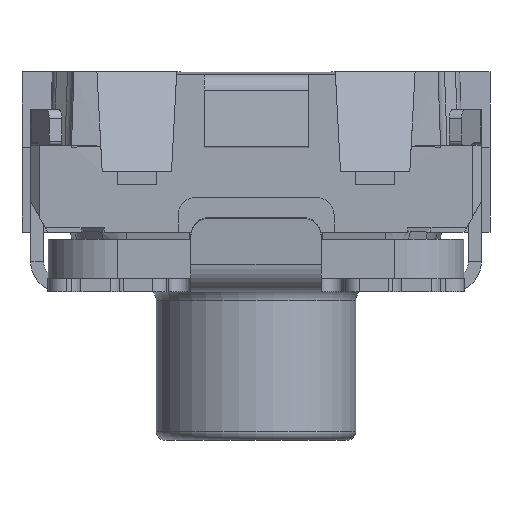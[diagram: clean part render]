
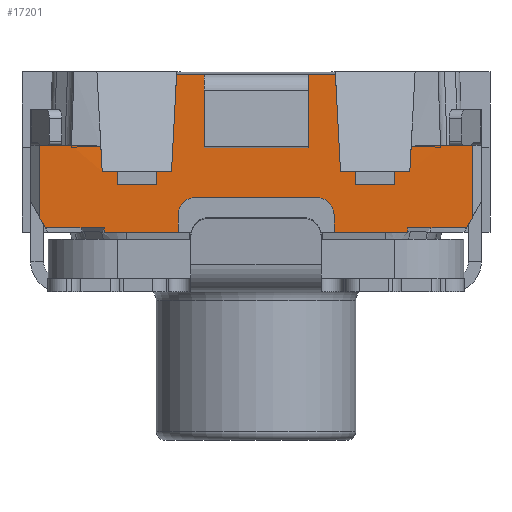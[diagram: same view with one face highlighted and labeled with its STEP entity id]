
A CAD part, left-side view. The second image highlights one B-rep face of the part: STEP entity #17201.
In plain terms, the highlighted planar face has unit normal (-1, 0, 0).
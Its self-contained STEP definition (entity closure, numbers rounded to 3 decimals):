
#11997=DIRECTION('',(0.,1.,0.));
#11998=VECTOR('',#11997,0.85);
#11999=CARTESIAN_POINT('',(-7.66,45.9,-1.06));
#12000=LINE('',#11999,#11998);
#12004=DIRECTION('',(0.,1.,0.));
#12005=VECTOR('',#12004,0.85);
#12006=CARTESIAN_POINT('',(-7.66,43.25,-1.06));
#12007=LINE('',#12006,#12005);
#12670=DIRECTION('',(0.,0.,-1.));
#12671=VECTOR('',#12670,0.05);
#12672=CARTESIAN_POINT('',(-7.66,43.25,-1.01));
#12673=LINE('',#12672,#12671);
#12677=DIRECTION('',(0.,0.052,-0.999));
#12678=VECTOR('',#12677,1.122);
#12679=CARTESIAN_POINT('',(-7.66,45.916,
0.76));
#12680=LINE('',#12679,#12678);
#12684=DIRECTION('',(0.,1.,0.));
#12685=VECTOR('',#12684,1.833);
#12686=CARTESIAN_POINT('',(-7.66,44.084,
0.76));
#12687=LINE('',#12686,#12685);
#12691=DIRECTION('',(0.,0.052,0.999));
#12692=VECTOR('',#12691,1.122);
#12693=CARTESIAN_POINT('',(-7.66,44.025,
-0.36));
#12694=LINE('',#12693,#12692);
#12698=DIRECTION('',(-0.034,0.052,-0.998));
#12699=VECTOR('',#12698,0.294);
#12700=CARTESIAN_POINT('',(-7.65,43.21,
-0.067));
#12701=LINE('',#12700,#12699);
#12705=DIRECTION('',(-0.03,-0.999,0.02));
#12706=VECTOR('',#12705,0.34);
#12707=CARTESIAN_POINT('',(-7.65,43.21,
-0.067));
#12708=LINE('',#12707,#12706);
#12712=DIRECTION('',(0.,1.,0.));
#12713=VECTOR('',#12712,0.37);
#12714=CARTESIAN_POINT('',(-7.66,42.5,
-0.06));
#12715=LINE('',#12714,#12713);
#12719=DIRECTION('',(0.,-0.496,0.868));
#12720=VECTOR('',#12719,0.144);
#12721=CARTESIAN_POINT('',(-7.66,42.571,-1.01));
#12722=LINE('',#12721,#12720);
#12726=CARTESIAN_POINT('',(-7.66,44.3,
-0.86));
#12727=DIRECTION('',(1.,0.,0.));
#12728=DIRECTION('',(0.,0.,1.));
#12729=AXIS2_PLACEMENT_3D('',#12726,#12727,#12728);
#12734=CARTESIAN_POINT('',(-7.66,45.7,
-0.86));
#12735=DIRECTION('',(1.,0.,0.));
#12736=DIRECTION('',(0.,1.,0.));
#12737=AXIS2_PLACEMENT_3D('',#12734,#12735,#12736);
#12742=DIRECTION('',(0.,-0.496,-0.868));
#12743=VECTOR('',#12742,0.144);
#12744=CARTESIAN_POINT('',(-7.66,47.5,
-0.885));
#12745=LINE('',#12744,#12743);
#12749=DIRECTION('',(0.,0.,-1.));
#12750=VECTOR('',#12749,0.825);
#12751=CARTESIAN_POINT('',(-7.66,47.5,
-0.06));
#12752=LINE('',#12751,#12750);
#12756=DIRECTION('',(0.,1.,0.));
#12757=VECTOR('',#12756,0.37);
#12758=CARTESIAN_POINT('',(-7.66,47.13,
-0.06));
#12759=LINE('',#12758,#12757);
#12763=DIRECTION('',(0.03,-0.999,-0.02));
#12764=VECTOR('',#12763,0.34);
#12765=CARTESIAN_POINT('',(-7.66,47.13,
-0.06));
#12766=LINE('',#12765,#12764);
#12770=DIRECTION('',(0.034,0.052,0.998));
#12771=VECTOR('',#12770,0.294);
#12772=CARTESIAN_POINT('',(-7.66,46.775,
-0.36));
#12773=LINE('',#12772,#12771);
#13110=DIRECTION('',(0.,0.,-1.));
#13111=VECTOR('',#13110,0.825);
#13112=CARTESIAN_POINT('',(-7.66,42.5,
-0.06));
#13113=LINE('',#13112,#13111);
#13275=DIRECTION('',(0.,-1.,0.));
#13276=VECTOR('',#13275,0.679);
#13277=CARTESIAN_POINT('',(-7.66,43.25,-1.01));
#13278=LINE('',#13277,#13276);
#13331=DIRECTION('',(0.,-1.,0.));
#13332=VECTOR('',#13331,0.8);
#13333=CARTESIAN_POINT('',(-7.66,44.025,
-0.36));
#13334=LINE('',#13333,#13332);
#13345=DIRECTION('',(0.,1.,0.));
#13346=VECTOR('',#13345,0.8);
#13347=CARTESIAN_POINT('',(-7.66,45.975,
-0.36));
#13348=LINE('',#13347,#13346);
#13762=DIRECTION('',(0.,-1.,0.));
#13763=VECTOR('',#13762,0.679);
#13764=CARTESIAN_POINT('',(-7.66,47.429,-1.01));
#13765=LINE('',#13764,#13763);
#13797=DIRECTION('',(0.,0.,-1.));
#13798=VECTOR('',#13797,0.05);
#13799=CARTESIAN_POINT('',(-7.66,46.75,-1.01));
#13800=LINE('',#13799,#13798);
#14274=DIRECTION('',(0.,0.,1.));
#14275=VECTOR('',#14274,0.2);
#14276=CARTESIAN_POINT('',(-7.66,44.1,-1.06));
#14277=LINE('',#14276,#14275);
#14346=DIRECTION('',(0.,1.,0.));
#14347=VECTOR('',#14346,1.4);
#14348=CARTESIAN_POINT('',(-7.66,44.3,
-0.66));
#14349=LINE('',#14348,#14347);
#14374=DIRECTION('',(0.,0.,1.));
#14375=VECTOR('',#14374,0.2);
#14376=CARTESIAN_POINT('',(-7.66,45.9,-1.06));
#14377=LINE('',#14376,#14375);
#15204=CARTESIAN_POINT('',(-7.65,46.79,
-0.067));
#15206=VERTEX_POINT('',#15204);
#15235=CARTESIAN_POINT('',(-7.65,43.21,
-0.067));
#15236=VERTEX_POINT('',#15235);
#15340=CARTESIAN_POINT('',(-7.66,44.025,
-0.36));
#15341=CARTESIAN_POINT('',(-7.66,44.084,
0.76));
#15342=VERTEX_POINT('',#15340);
#15343=VERTEX_POINT('',#15341);
#15352=CARTESIAN_POINT('',(-7.66,45.916,
0.76));
#15353=VERTEX_POINT('',#15352);
#15359=CARTESIAN_POINT('',(-7.66,45.975,
-0.36));
#15360=VERTEX_POINT('',#15359);
#15460=CARTESIAN_POINT('',(-7.66,43.225,
-0.36));
#15461=VERTEX_POINT('',#15460);
#15488=CARTESIAN_POINT('',(-7.66,42.87,
-0.06));
#15490=VERTEX_POINT('',#15488);
#15503=CARTESIAN_POINT('',(-7.66,42.5,
-0.06));
#15504=VERTEX_POINT('',#15503);
#15506=CARTESIAN_POINT('',(-7.66,47.5,
-0.06));
#15508=VERTEX_POINT('',#15506);
#15520=CARTESIAN_POINT('',(-7.66,47.13,
-0.06));
#15521=VERTEX_POINT('',#15520);
#15524=CARTESIAN_POINT('',(-7.66,46.775,
-0.36));
#15525=VERTEX_POINT('',#15524);
#15542=CARTESIAN_POINT('',(-7.66,47.5,
-0.885));
#15543=VERTEX_POINT('',#15542);
#15546=CARTESIAN_POINT('',(-7.66,42.5,
-0.885));
#15547=VERTEX_POINT('',#15546);
#15548=CARTESIAN_POINT('',(-7.66,42.571,-1.01));
#15549=VERTEX_POINT('',#15548);
#15550=CARTESIAN_POINT('',(-7.66,43.25,-1.01));
#15551=VERTEX_POINT('',#15550);
#15552=CARTESIAN_POINT('',(-7.66,43.25,-1.06));
#15553=VERTEX_POINT('',#15552);
#15554=CARTESIAN_POINT('',(-7.66,44.1,-1.06));
#15555=VERTEX_POINT('',#15554);
#15556=CARTESIAN_POINT('',(-7.66,44.1,
-0.86));
#15557=VERTEX_POINT('',#15556);
#15558=CARTESIAN_POINT('',(-7.66,44.3,
-0.66));
#15559=VERTEX_POINT('',#15558);
#15560=CARTESIAN_POINT('',(-7.66,45.7,
-0.66));
#15561=VERTEX_POINT('',#15560);
#15562=CARTESIAN_POINT('',(-7.66,45.9,
-0.86));
#15563=VERTEX_POINT('',#15562);
#15564=CARTESIAN_POINT('',(-7.66,45.9,-1.06));
#15565=VERTEX_POINT('',#15564);
#15566=CARTESIAN_POINT('',(-7.66,46.75,-1.06));
#15567=VERTEX_POINT('',#15566);
#15568=CARTESIAN_POINT('',(-7.66,46.75,-1.01));
#15569=VERTEX_POINT('',#15568);
#15570=CARTESIAN_POINT('',(-7.66,47.429,-1.01));
#15571=VERTEX_POINT('',#15570);
#17145=CARTESIAN_POINT('',(-7.66,45.,
-0.15));
#17146=DIRECTION('',(1.,0.,0.));
#17147=DIRECTION('',(0.,-1.,0.));
#17148=AXIS2_PLACEMENT_3D('',#17145,#17146,#17147);
#17149=PLANE('',#17148);
#17151=ORIENTED_EDGE('',*,*,#17150,.F.);
#17153=ORIENTED_EDGE('',*,*,#17152,.F.);
#17155=ORIENTED_EDGE('',*,*,#17154,.F.);
#17157=ORIENTED_EDGE('',*,*,#17156,.T.);
#17159=ORIENTED_EDGE('',*,*,#17158,.F.);
#17161=ORIENTED_EDGE('',*,*,#17160,.T.);
#17163=ORIENTED_EDGE('',*,*,#17162,.F.);
#17165=ORIENTED_EDGE('',*,*,#17164,.T.);
#17167=ORIENTED_EDGE('',*,*,#17166,.F.);
#17169=ORIENTED_EDGE('',*,*,#17168,.F.);
#17170=ORIENTED_EDGE('',*,*,#17137,.T.);
#17171=ORIENTED_EDGE('',*,*,#16805,.T.);
#17173=ORIENTED_EDGE('',*,*,#17172,.T.);
#17175=ORIENTED_EDGE('',*,*,#17174,.F.);
#17177=ORIENTED_EDGE('',*,*,#17176,.T.);
#17179=ORIENTED_EDGE('',*,*,#17178,.F.);
#17181=ORIENTED_EDGE('',*,*,#17180,.F.);
#17182=ORIENTED_EDGE('',*,*,#16797,.T.);
#17184=ORIENTED_EDGE('',*,*,#17183,.F.);
#17186=ORIENTED_EDGE('',*,*,#17185,.F.);
#17188=ORIENTED_EDGE('',*,*,#17187,.F.);
#17190=ORIENTED_EDGE('',*,*,#17189,.F.);
#17192=ORIENTED_EDGE('',*,*,#17191,.F.);
#17194=ORIENTED_EDGE('',*,*,#17193,.T.);
#17196=ORIENTED_EDGE('',*,*,#17195,.F.);
#17198=ORIENTED_EDGE('',*,*,#17197,.F.);
#17199=EDGE_LOOP('',(#17151,#17153,#17155,#17157,#17159,#17161,#17163,#17165,
#17167,#17169,#17170,#17171,#17173,#17175,#17177,#17179,#17181,#17182,#17184,
#17186,#17188,#17190,#17192,#17194,#17196,#17198));
#17200=FACE_OUTER_BOUND('',#17199,.F.);
#12730=CIRCLE('',#12729,0.2);
#12738=CIRCLE('',#12737,0.2);
#16797=EDGE_CURVE('',#15565,#15567,#12000,.T.);
#16805=EDGE_CURVE('',#15553,#15555,#12007,.T.);
#17137=EDGE_CURVE('',#15551,#15553,#12673,.T.);
#17150=EDGE_CURVE('',#15353,#15360,#12680,.T.);
#17152=EDGE_CURVE('',#15343,#15353,#12687,.T.);
#17154=EDGE_CURVE('',#15342,#15343,#12694,.T.);
#17156=EDGE_CURVE('',#15342,#15461,#13334,.T.);
#17158=EDGE_CURVE('',#15236,#15461,#12701,.T.);
#17160=EDGE_CURVE('',#15236,#15490,#12708,.T.);
#17162=EDGE_CURVE('',#15504,#15490,#12715,.T.);
#17164=EDGE_CURVE('',#15504,#15547,#13113,.T.);
#17166=EDGE_CURVE('',#15549,#15547,#12722,.T.);
#17168=EDGE_CURVE('',#15551,#15549,#13278,.T.);
#17172=EDGE_CURVE('',#15555,#15557,#14277,.T.);
#17174=EDGE_CURVE('',#15559,#15557,#12730,.T.);
#17176=EDGE_CURVE('',#15559,#15561,#14349,.T.);
#17178=EDGE_CURVE('',#15563,#15561,#12738,.T.);
#17180=EDGE_CURVE('',#15565,#15563,#14377,.T.);
#17183=EDGE_CURVE('',#15569,#15567,#13800,.T.);
#17185=EDGE_CURVE('',#15571,#15569,#13765,.T.);
#17187=EDGE_CURVE('',#15543,#15571,#12745,.T.);
#17189=EDGE_CURVE('',#15508,#15543,#12752,.T.);
#17191=EDGE_CURVE('',#15521,#15508,#12759,.T.);
#17193=EDGE_CURVE('',#15521,#15206,#12766,.T.);
#17195=EDGE_CURVE('',#15525,#15206,#12773,.T.);
#17197=EDGE_CURVE('',#15360,#15525,#13348,.T.);
#17201=ADVANCED_FACE('',(#17200),#17149,.F.);
